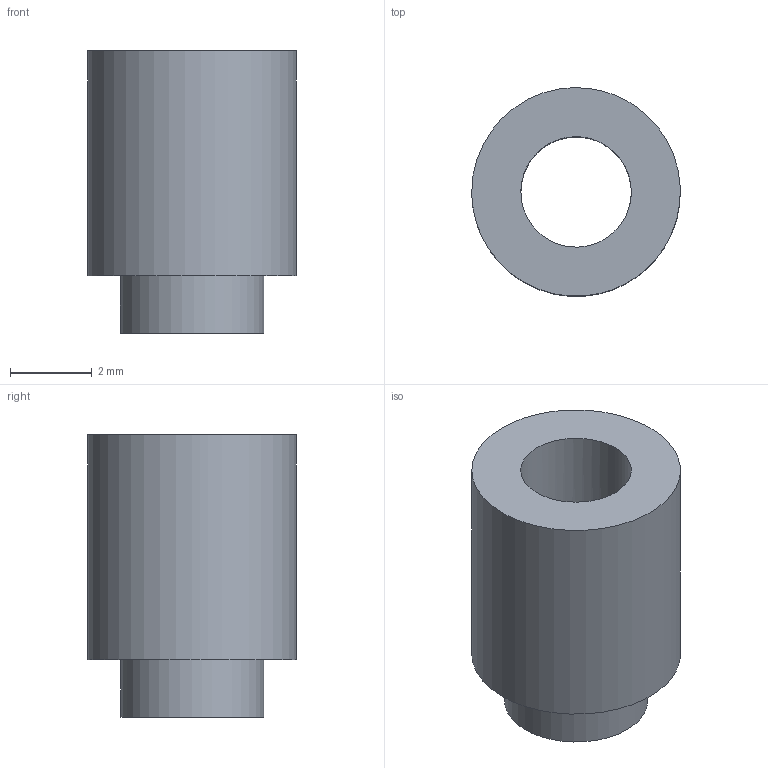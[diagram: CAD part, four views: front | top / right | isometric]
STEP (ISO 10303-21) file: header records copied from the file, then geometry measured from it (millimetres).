
FILE_DESCRIPTION(('FreeCAD Model'),'2;1');
FILE_NAME('Open CASCADE Shape Model','2026-03-20T17:23:17',('Author'),( ''),'Open CASCADE STEP processor 7.8','FreeCAD','Unknown');
FILE_SCHEMA(('AP242_MANAGED_MODEL_BASED_3D_ENGINEERING_MIM_LF. {1 0 10303 442 1 1 4 }'));
Length unit declared in the file: millimetre
Products named in the file (1): 1_transformed
Bounding box: 5.1 x 5.09 x 6.9 mm (x, y, z)
Volume: 87.1 mm3; surface area: 191.9 mm2
Topology: 1 solids, 1 shells, 6 faces, 10 edges, 7 vertices
Faces by surface type: bspline 6
Entity records: 209 total; most frequent: CARTESIAN_POINT 113, ORIENTED_EDGE 20, EDGE_CURVE 10, FACE_BOUND 9, EDGE_LOOP 9, VERTEX_POINT 7, ADVANCED_FACE 6, B_SPLINE_SURFACE_WITH_KNOTS 3
